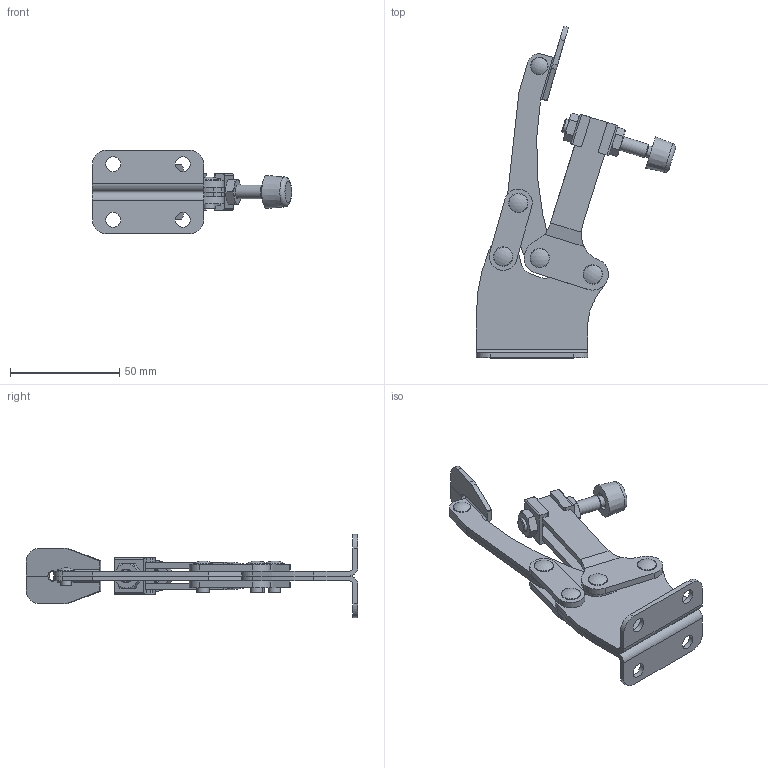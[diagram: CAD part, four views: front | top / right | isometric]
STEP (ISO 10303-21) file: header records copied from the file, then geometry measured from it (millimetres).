
FILE_DESCRIPTION(/* description */ (''),/* implementation_level */ '2;1');
FILE_NAME(/* name */ 'C:\Users\Nick\Desktop\H-400x20\3D\H-400x20 Open.stp',/* time_stamp */ '2015-10-21T12:37:14-04:00',/* author */ ('Nick'),/* organization */ (''),/* preprocessor_version */ 'ST-DEVELOPER v16.1',/* originating_system */ 'AutoCAD Mechanical',/* authorisation */ '');
FILE_SCHEMA (('AUTOMOTIVE_DESIGN { 1 0 10303 214 3 1 1 }'));
Length unit declared in the file: inch
Products named in the file (2): 100039L; Product
Assembly tree (1 placements, depth 2):
  Product
    100039L
Bounding box: 90.93 x 151.59 x 38.1 mm (x, y, z)
Volume: 37566.4 mm3; surface area: 36489.3 mm2
Topology: 19 solids, 19 shells, 308 faces, 751 edges, 488 vertices
Faces by surface type: plane 133, cylinder 114, cone 35, torus 18, sphere 6, bspline 2
Full cylindrical faces by diameter (mm): 2.337 x2, 3.581 x1, 3.962 x4, 4.775 x1, 4.978 x2, 5.156 x1, 5.537 x4, 5.639 x4, 5.664 x12, 6.35 x1, 6.756 x6, 7.925 x1
Entity records: 8999 total; most frequent: CARTESIAN_POINT 1893, DIRECTION 1516, ORIENTED_EDGE 1332, EDGE_CURVE 666, AXIS2_PLACEMENT_3D 603, VERTEX_POINT 468, EDGE_LOOP 432, LINE 310
